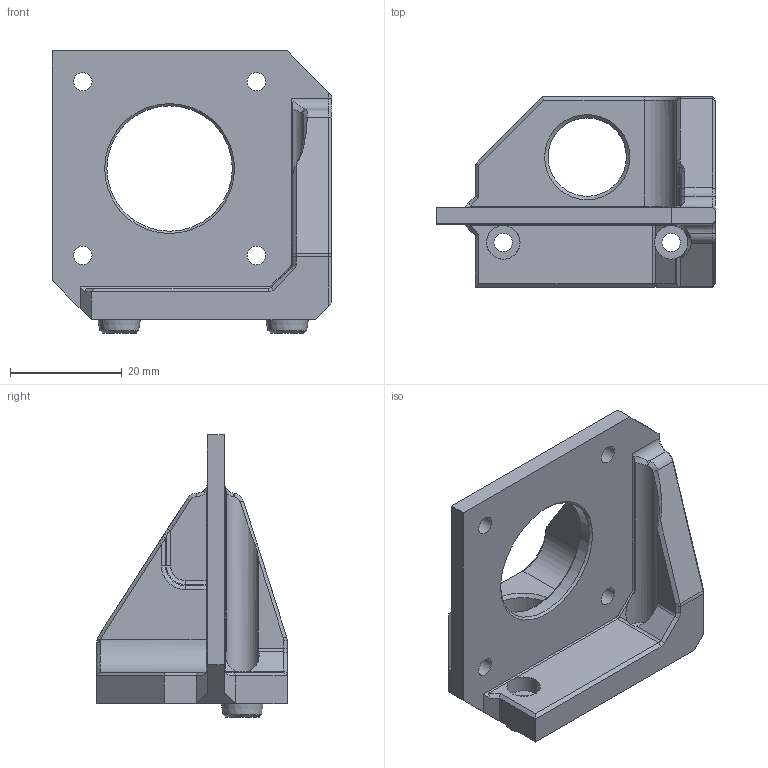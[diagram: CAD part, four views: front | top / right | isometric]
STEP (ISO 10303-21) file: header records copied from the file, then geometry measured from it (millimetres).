
FILE_DESCRIPTION(/* description */ (''),/* implementation_level */ '2;1');
FILE_NAME(/* name */ 'HMG7-Creality-Single-Gear-Front-Mount.step',/* time_stamp */ '2022-11-01T22:05:46-07:00',/* author */ (''),/* organization */ (''),/* preprocessor_version */ 'ST-DEVELOPER v19.2',/* originating_system */ 'Autodesk Translation Framework v11.17.0.187',/* authorisation */ '');
FILE_SCHEMA (('AUTOMOTIVE_DESIGN { 1 0 10303 214 3 1 1 }'));
Length unit declared in the file: millimetre
Products named in the file (3): GEN_7_1.5; Creality_MK10_Extruder_Front; Creality_Mk10_Front_Mount
Assembly tree (2 placements, depth 3):
  GEN_7_1.5
    Creality_MK10_Extruder_Front
      Creality_Mk10_Front_Mount
Bounding box: 50 x 34 x 50.37 mm (x, y, z)
Volume: 16213.5 mm3; surface area: 8703.5 mm2
Topology: 1 solids, 1 shells, 126 faces, 311 edges, 189 vertices
Faces by surface type: plane 58, cone 27, cylinder 24, bspline 15, torus 2
Full cylindrical faces by diameter (mm): 3.3 x6, 6 x2, 14 x1, 22.4 x1
Entity records: 4105 total; most frequent: CARTESIAN_POINT 1082, ORIENTED_EDGE 622, DIRECTION 587, EDGE_CURVE 311, AXIS2_PLACEMENT_3D 198, LINE 191, VECTOR 191, VERTEX_POINT 189
